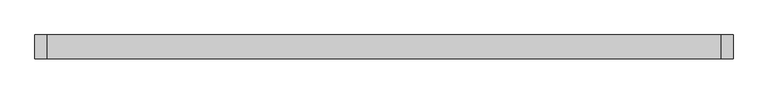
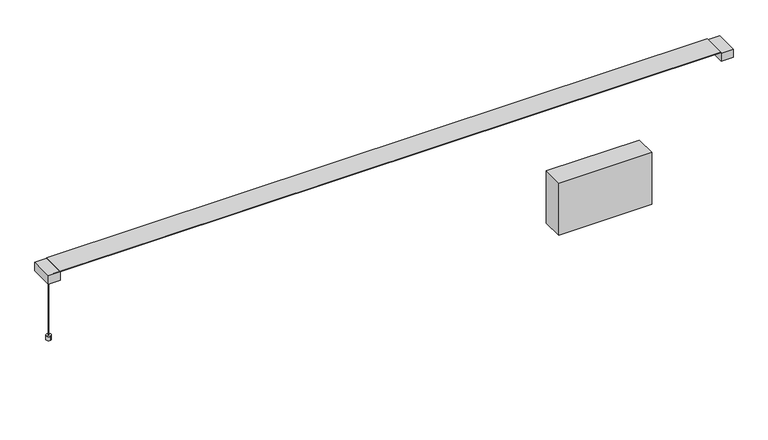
"""IFC4 building model written with IfcOpenShell, lengths in millimetres: light fixture geometry, Fabbian.Pivot F39 (F39 A01A 01,F39 A01A 21,F39 A01A 76,F39 A02A 01,F39 A02A 21,F39 A02A 76) : F39 A01A 01."""

from ifc_helpers import new_model, si_unit, point, frame, frame_2d, origin, origin_with_axes, place, context, project, spatial, polyline, circle_curve, trimmed, segment, composite_curve, outline, extrude, source, transform, mapped, element, save


def light_fixture_271697db(model_context):
    return source(origin(), model_context, "Body", "SweptSolid", [
        extrude(outline(polyline([(619.1350388, 24.9666442), (619.1350388, -25.0334567), (399.1348055, -25.0334567), (399.1348055, 24.9666442), (619.1350388, 24.9666442)])), frame((0.0, 0.0, -142.875), z_axis=(0.0, 0.0, 1.0), x_axis=(1.0, 0.0, 0.0)), (0.0, 0.0, 1.0), 130.175),
        extrude(outline(composite_curve([segment(trimmed(circle_curve(frame_2d((-794.2559882, 0.0)), 0.4949808), [point((-794.750969, 0.0))], [point((-793.7610074, 0.0))], False, "CARTESIAN"), True, "CONTINUOUS"), segment(trimmed(circle_curve(frame_2d((-794.2559882, 0.0)), 0.4949808), [point((-793.7610074, 0.0))], [point((-794.750969, 0.0))], False, "CARTESIAN"), True, "CONTINUOUS")], self_intersect=False)), origin_with_axes(), (0.0, 0.0, 1.0), 159.6242394),
        extrude(outline(polyline([(-0.4107254, 159.893756), (-26.3879175, 181.0787506), (25.5497693, 181.0787506), (0.4107259, 159.893756), (0.4107259, 160.681594), (-0.4107254, 160.681594), (-0.4107254, 159.893756)])), frame((-782.3132834, 0.0, 0.0), z_axis=(1.0, 0.0, 0.0), x_axis=(0.0, 1.0, 0.0)), (0.0, 0.0, 1.0), 1564.6265668),
        extrude(outline(polyline([(-782.3132834, 27.7285043), (-782.3132834, -27.7953166), (-810.5140956, -27.7953166), (-810.5140956, 27.7285043), (-782.3132834, 27.7285043)])), frame((0.0, 0.0, 159.6242394), z_axis=(0.0, 0.0, 1.0), x_axis=(1.0, 0.0, 0.0)), (0.0, 0.0, 1.0), 20.8761838),
        extrude(outline(polyline([(782.3132834, 27.7285042), (810.5140956, 27.7285042), (810.5140956, -27.7953167), (782.3132834, -27.7953167), (782.3132834, 27.7285042)])), frame((0.0, 0.0, 159.6242394), z_axis=(0.0, 0.0, 1.0), x_axis=(1.0, 0.0, 0.0)), (0.0, 0.0, 1.0), 20.8761838),
        extrude(outline(polyline([(0.0, -0.8214513), (0.0, 0.0), (1564.6265668, 0.0), (1564.6265668, -0.8214513), (0.0, -0.8214513)])), frame((-782.3132834, 0.4107259, 159.893756), z_axis=(-5.7155291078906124e-11, 0.0, 1.0), x_axis=(1.0, 0.0, 5.7155291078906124e-11)), (0.0, 0.0, 1.0), 0.787838),
        extrude(outline(polyline([(781.7488887, -27.7780006), (-782.3132834, -27.7780006), (-782.3132834, 27.7779986), (781.7488887, 27.7779986), (781.7488887, -27.7780006)])), frame((0.0, 0.0, 181.0787506), z_axis=(0.0, 0.0, 1.0), x_axis=(1.0, 0.0, 0.0)), (0.0, 0.0, 1.0), 1.1514277),
        extrude(outline(composite_curve([segment(trimmed(circle_curve(frame_2d((-794.2560169, -0.4556113)), 5.8155806), [point((-795.0837096, 5.3007681))], [point((-793.4283243, -6.2119906))], False, "CARTESIAN"), True, "CONTINUOUS"), segment(trimmed(circle_curve(frame_2d((-794.2560169, -0.4556113)), 5.8155806), [point((-793.4283243, -6.2119906))], [point((-795.0837096, 5.3007681))], False, "CARTESIAN"), True, "CONTINUOUS")], self_intersect=False)), origin_with_axes(), (0.0, 0.0, 1.0), 9.6582083),
    ])


if __name__ == "__main__":
    model = new_model("IFC4")
    model_context = context("Model", 3, world=origin())
    ifc_project = project(units=[si_unit("LENGTHUNIT", "METRE", prefix="MILLI")], contexts=[model_context])
    site = spatial("IfcSite", under=ifc_project)
    building = spatial("IfcBuilding", under=site)
    placement = place(None, origin())
    light_fixture_shape = light_fixture_271697db(model_context)
    element("IfcLightFixture", 1, ObjectType="Fabbian.Pivot F39 (F39 A01A 01,F39 A01A 21,F39 A01A 76,F39 A02A 01,F39 A02A 21,F39 A02A 76) : F39 A01A 01", at=placement, inside=building, context=model_context, shape_type="MappedRepresentation", body=[
        mapped(light_fixture_shape, transform((0.0, 0.0, 0.0), x_axis=(1.0, 0.0, 0.0), y_axis=(0.0, 1.0, 0.0), z_axis=(0.0, 0.0, 1.0))),
    ])
    save(model, "model.ifc")
